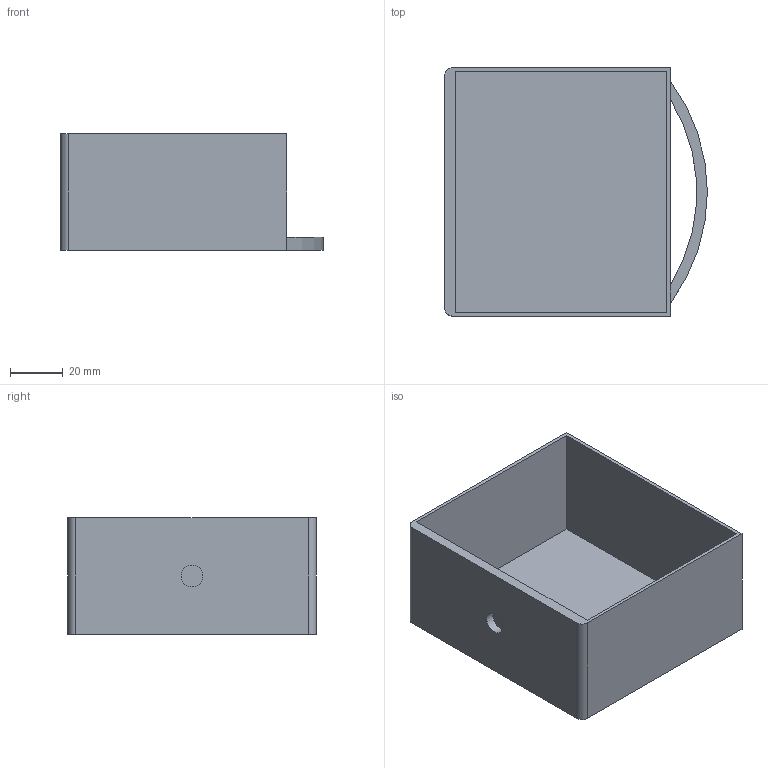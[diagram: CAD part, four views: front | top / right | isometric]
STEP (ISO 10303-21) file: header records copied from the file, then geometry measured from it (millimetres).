
FILE_DESCRIPTION(/* description */ (''),/* implementation_level */ '2;1');
FILE_NAME(/* name */ 'C:/Users/pet3r/Desktop/3D/MOJE/My Drawers/STEP/Drawer 2x2.step',/* time_stamp */ '2018-03-31T21:34:00+02:00',/* author */ (''),/* organization */ (''),/* preprocessor_version */ 'ST-DEVELOPER v16.13',/* originating_system */ 'Autodesk Translation Framework v6.5.0.72',/* authorisation */ '');
FILE_SCHEMA (('AUTOMOTIVE_DESIGN { 1 0 10303 214 3 1 1 }'));
Length unit declared in the file: millimetre
Products named in the file (1): Drawer 2x2
Bounding box: 100 x 94.5 x 44.5 mm (x, y, z)
Volume: 40706.2 mm3; surface area: 48715.3 mm2
Topology: 1 solids, 1 shells, 18 faces, 45 edges, 30 vertices
Faces by surface type: plane 13, cylinder 5
Full cylindrical faces by diameter (mm): 8.3 x1
Entity records: 583 total; most frequent: CARTESIAN_POINT 94, DIRECTION 93, ORIENTED_EDGE 90, EDGE_CURVE 45, LINE 35, VECTOR 35, VERTEX_POINT 30, AXIS2_PLACEMENT_3D 29
